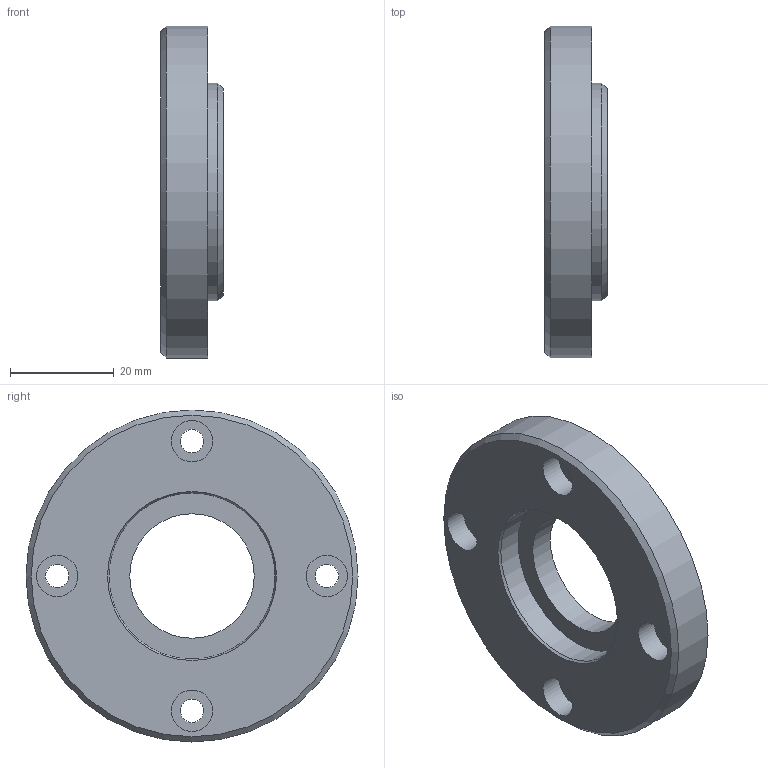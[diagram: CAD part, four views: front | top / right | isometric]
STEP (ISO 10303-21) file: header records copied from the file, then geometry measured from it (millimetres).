
FILE_DESCRIPTION(/* description */ (''),/* implementation_level */ '2;1');
FILE_NAME(/* name */ '',/* time_stamp */ '2024-04-08T11:15:54+09:00',/* author */ ('jhkim'),/* organization */ (''),/* preprocessor_version */ 'ST-DEVELOPER v20',/* originating_system */ 'Autodesk Inventor 2025',/* authorisation */ '');
FILE_SCHEMA (('AUTOMOTIVE_DESIGN { 1 0 10303 214 3 1 1 }'));
Length unit declared in the file: millimetre
Products named in the file (1): 커버
Bounding box: 12 x 64 x 64 mm (x, y, z)
Volume: 23256.2 mm3; surface area: 9208.3 mm2
Topology: 1 solids, 1 shells, 25 faces, 46 edges, 30 vertices
Faces by surface type: cylinder 13, plane 9, cone 3
Full cylindrical faces by diameter (mm): 4.5 x4, 8 x4, 24 x1, 32 x1, 37 x1, 42 x1, 64 x1
Entity records: 697 total; most frequent: DIRECTION 128, CARTESIAN_POINT 102, ORIENTED_EDGE 92, AXIS2_PLACEMENT_3D 56, EDGE_CURVE 46, EDGE_LOOP 42, CIRCLE 30, VERTEX_POINT 30
